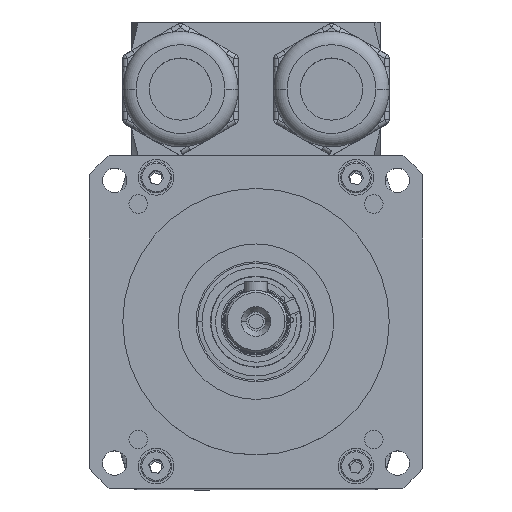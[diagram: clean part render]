
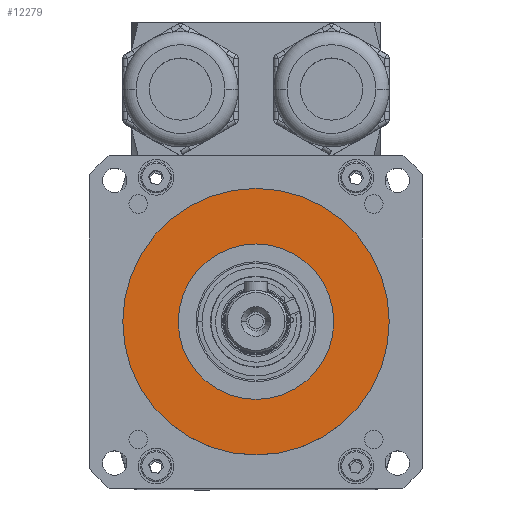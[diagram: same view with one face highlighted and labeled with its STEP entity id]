
A CAD part, top view. The second image highlights one B-rep face of the part: STEP entity #12279.
In plain terms, the highlighted planar face has unit normal (0, 0, 1).
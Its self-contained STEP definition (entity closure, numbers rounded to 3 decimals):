
#316 = AXIS2_PLACEMENT_3D ( 'NONE', #4320, #4339, #4336 ) ;
#318 = AXIS2_PLACEMENT_3D ( 'NONE', #4353, #4242, #4330 ) ;
#328 = AXIS2_PLACEMENT_3D ( 'NONE', #8852, #8943, #8892 ) ;
#332 = AXIS2_PLACEMENT_3D ( 'NONE', #8963, #8913, #8996 ) ;
#1365 = VERTEX_POINT ( 'NONE', #11027 ) ;
#1847 = VERTEX_POINT ( 'NONE', #7800 ) ;
#1854 = VERTEX_POINT ( 'NONE', #7680 ) ;
#1859 = VERTEX_POINT ( 'NONE', #7812 ) ;
#3516 = CARTESIAN_POINT ( 'NONE',  ( -37.5, 37.5, 19. ) ) ;
#3522 = PLANE ( 'NONE',  #5277 ) ;
#3525 = DIRECTION ( 'NONE',  ( 0., 0., 1. ) ) ;
#3527 = DIRECTION ( 'NONE',  ( 1., 0., 0. ) ) ;
#4242 = DIRECTION ( 'NONE',  ( 0., 0., 1. ) ) ;
#4320 = CARTESIAN_POINT ( 'NONE',  ( 0., 0., 19. ) ) ;
#4330 = DIRECTION ( 'NONE',  ( 1., 0., 0. ) ) ;
#4336 = DIRECTION ( 'NONE',  ( 1., 0., 0. ) ) ;
#4339 = DIRECTION ( 'NONE',  ( 0., 0., 1. ) ) ;
#4353 = CARTESIAN_POINT ( 'NONE',  ( 0., 0., 19. ) ) ;
#4723 = CIRCLE ( 'NONE', #316, 30. ) ;
#4733 = CIRCLE ( 'NONE', #318, 17.5 ) ;
#4768 = CIRCLE ( 'NONE', #328, 17.5 ) ;
#4777 = CIRCLE ( 'NONE', #332, 30. ) ;
#5277 = AXIS2_PLACEMENT_3D ( 'NONE', #3516, #3525, #3527 ) ;
#6929 = FACE_OUTER_BOUND ( 'NONE', #14058, .T. ) ;
#6930 = FACE_BOUND ( 'NONE', #14060, .T. ) ;
#7062 = EDGE_CURVE ( 'NONE', #1847, #1859, #4723, .T. ) ;
#7068 = EDGE_CURVE ( 'NONE', #1854, #1365, #4733, .T. ) ;
#7092 = EDGE_CURVE ( 'NONE', #1365, #1854, #4768, .T. ) ;
#7098 = EDGE_CURVE ( 'NONE', #1859, #1847, #4777, .T. ) ;
#7680 = CARTESIAN_POINT ( 'NONE',  ( -17.5, 0., 19. ) ) ;
#7800 = CARTESIAN_POINT ( 'NONE',  ( 30., 0., 19. ) ) ;
#7812 = CARTESIAN_POINT ( 'NONE',  ( -30., 0., 19. ) ) ;
#8852 = CARTESIAN_POINT ( 'NONE',  ( 0., 0., 19. ) ) ;
#8892 = DIRECTION ( 'NONE',  ( 1., 0., 0. ) ) ;
#8913 = DIRECTION ( 'NONE',  ( 0., 0., 1. ) ) ;
#8943 = DIRECTION ( 'NONE',  ( 0., 0., 1. ) ) ;
#8963 = CARTESIAN_POINT ( 'NONE',  ( 0., 0., 19. ) ) ;
#8996 = DIRECTION ( 'NONE',  ( 1., 0., 0. ) ) ;
#11027 = CARTESIAN_POINT ( 'NONE',  ( 17.5, 0., 19. ) ) ;
#12279 = ADVANCED_FACE ( 'NONE', ( #6929, #6930 ), #3522, .T. ) ;
#12782 = ORIENTED_EDGE ( 'NONE', *, *, #7092, .F. ) ;
#12783 = ORIENTED_EDGE ( 'NONE', *, *, #7098, .T. ) ;
#12784 = ORIENTED_EDGE ( 'NONE', *, *, #7062, .T. ) ;
#12785 = ORIENTED_EDGE ( 'NONE', *, *, #7068, .F. ) ;
#14058 = EDGE_LOOP ( 'NONE', ( #12784, #12783 ) ) ;
#14060 = EDGE_LOOP ( 'NONE', ( #12782, #12785 ) ) ;
